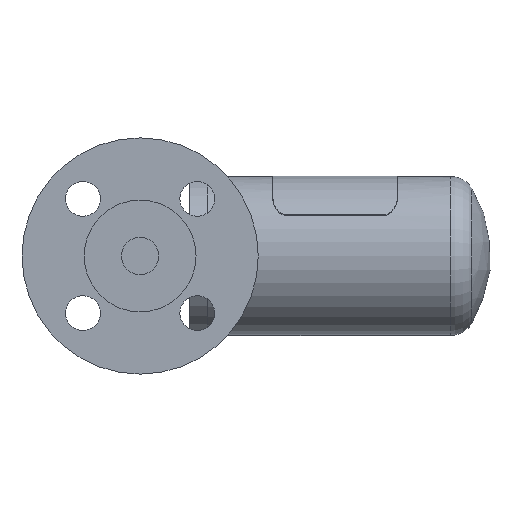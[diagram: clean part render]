
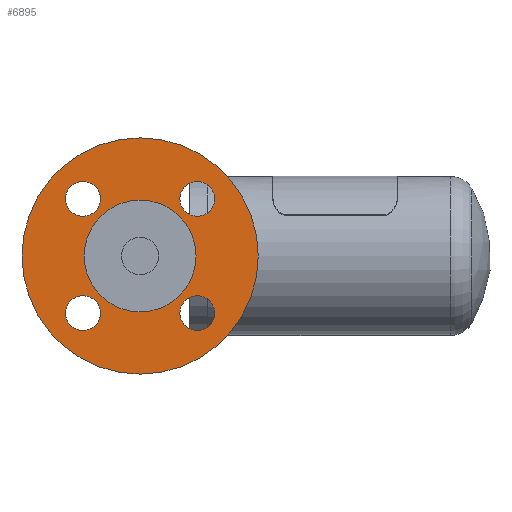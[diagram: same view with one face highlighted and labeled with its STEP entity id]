
A CAD part, left-side view. The second image highlights one B-rep face of the part: STEP entity #6895.
In plain terms, the highlighted planar face has unit normal (-1, 0, 0).
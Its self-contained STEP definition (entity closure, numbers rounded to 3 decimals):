
#206=FACE_BOUND('',#1214,.T.);
#207=FACE_BOUND('',#1215,.T.);
#208=FACE_BOUND('',#1216,.T.);
#209=FACE_BOUND('',#1217,.T.);
#210=FACE_BOUND('',#1218,.T.);
#402=PLANE('',#7268);
#782=FACE_OUTER_BOUND('',#1213,.T.);
#1213=EDGE_LOOP('',(#6452));
#1214=EDGE_LOOP('',(#6453));
#1215=EDGE_LOOP('',(#6454));
#1216=EDGE_LOOP('',(#6455));
#1217=EDGE_LOOP('',(#6456));
#1218=EDGE_LOOP('',(#6457));
#1583=CIRCLE('',#7251,7.);
#1585=CIRCLE('',#7254,7.);
#1587=CIRCLE('',#7257,7.);
#1589=CIRCLE('',#7260,7.);
#1593=CIRCLE('',#7267,47.5);
#1594=CIRCLE('',#7269,22.5);
#3477=VERTEX_POINT('',#12799);
#3479=VERTEX_POINT('',#12805);
#3481=VERTEX_POINT('',#12811);
#3483=VERTEX_POINT('',#12817);
#3487=VERTEX_POINT('',#12830);
#3488=VERTEX_POINT('',#12834);
#4462=EDGE_CURVE('',#3477,#3477,#1583,.T.);
#4465=EDGE_CURVE('',#3479,#3479,#1585,.T.);
#4468=EDGE_CURVE('',#3481,#3481,#1587,.T.);
#4471=EDGE_CURVE('',#3483,#3483,#1589,.T.);
#4477=EDGE_CURVE('',#3487,#3487,#1593,.T.);
#4479=EDGE_CURVE('',#3488,#3488,#1594,.T.);
#6452=ORIENTED_EDGE('',*,*,#4477,.F.);
#6453=ORIENTED_EDGE('',*,*,#4462,.T.);
#6454=ORIENTED_EDGE('',*,*,#4465,.T.);
#6455=ORIENTED_EDGE('',*,*,#4468,.T.);
#6456=ORIENTED_EDGE('',*,*,#4471,.T.);
#6457=ORIENTED_EDGE('',*,*,#4479,.T.);
#6895=ADVANCED_FACE('',(#782,#206,#207,#208,#209,#210),#402,.F.);
#7251=AXIS2_PLACEMENT_3D('',#12800,#8543,#8544);
#7254=AXIS2_PLACEMENT_3D('',#12806,#8550,#8551);
#7257=AXIS2_PLACEMENT_3D('',#12812,#8557,#8558);
#7260=AXIS2_PLACEMENT_3D('',#12818,#8564,#8565);
#7267=AXIS2_PLACEMENT_3D('',#12831,#8580,#8581);
#7268=AXIS2_PLACEMENT_3D('',#12833,#8583,#8584);
#7269=AXIS2_PLACEMENT_3D('',#12835,#8585,#8586);
#8543=DIRECTION('center_axis',(1.,0.,0.));
#8544=DIRECTION('ref_axis',(0.,1.,0.));
#8550=DIRECTION('center_axis',(1.,0.,0.));
#8551=DIRECTION('ref_axis',(0.,0.,
-1.));
#8557=DIRECTION('center_axis',(1.,0.,0.));
#8558=DIRECTION('ref_axis',(0.,-1.,0.));
#8564=DIRECTION('center_axis',(1.,0.,0.));
#8565=DIRECTION('ref_axis',(0.,0.,
1.));
#8580=DIRECTION('center_axis',(1.,0.,0.));
#8581=DIRECTION('ref_axis',(0.,0.,
1.));
#8583=DIRECTION('center_axis',(1.,0.,0.));
#8584=DIRECTION('ref_axis',(0.,0.,
1.));
#8585=DIRECTION('center_axis',(1.,0.,0.));
#8586=DIRECTION('ref_axis',(0.,0.,
1.));
#12799=CARTESIAN_POINT('',(-88.649,86.605,22.981));
#12800=CARTESIAN_POINT('Origin',(-88.649,93.605,22.981));
#12805=CARTESIAN_POINT('',(-88.649,93.605,-15.981));
#12806=CARTESIAN_POINT('Origin',(-88.649,93.605,-22.981));
#12811=CARTESIAN_POINT('',(-88.649,54.643,-22.981));
#12812=CARTESIAN_POINT('Origin',(-88.649,47.643,-22.981));
#12817=CARTESIAN_POINT('',(-88.649,47.643,15.981));
#12818=CARTESIAN_POINT('Origin',(-88.649,47.643,22.981));
#12830=CARTESIAN_POINT('',(-88.649,118.124,0.));
#12831=CARTESIAN_POINT('Origin',(-88.649,70.624,0.));
#12833=CARTESIAN_POINT('Origin',(-88.649,48.124,0.));
#12834=CARTESIAN_POINT('',(-88.649,93.124,0.));
#12835=CARTESIAN_POINT('Origin',(-88.649,70.624,0.));
